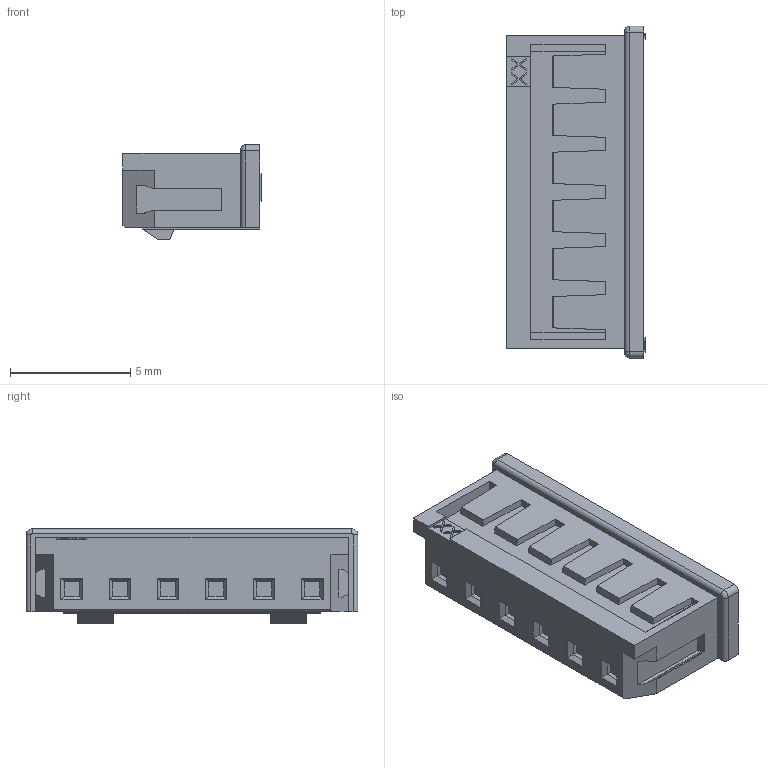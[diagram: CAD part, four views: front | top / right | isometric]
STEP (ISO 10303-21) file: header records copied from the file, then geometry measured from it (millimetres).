
FILE_DESCRIPTION((''),'2;1');
FILE_NAME('E3D-51433-006HXXX-XXX','2020-06-02T',('d35127'),(''),'CREO PARAMETRIC BY PTC INC, 2014500','CREO PARAMETRIC BY PTC INC, 2014500','');
FILE_SCHEMA(('CONFIG_CONTROL_DESIGN'));
Length unit declared in the file: millimetre
Products named in the file (1): E3D-51433-006HXXX-XXX
Bounding box: 5.75 x 13.8 x 3.92 mm (x, y, z)
Volume: 221.3 mm3; surface area: 320.6 mm2
Topology: 1 solids, 1 shells, 259 faces, 695 edges, 454 vertices
Faces by surface type: plane 252, cylinder 5, bspline 2
Entity records: 7957 total; most frequent: CARTESIAN_POINT 1438, ORIENTED_EDGE 1390, DIRECTION 1221, EDGE_CURVE 695, VECTOR 683, LINE 683, VERTEX_POINT 454, EDGE_LOOP 275
